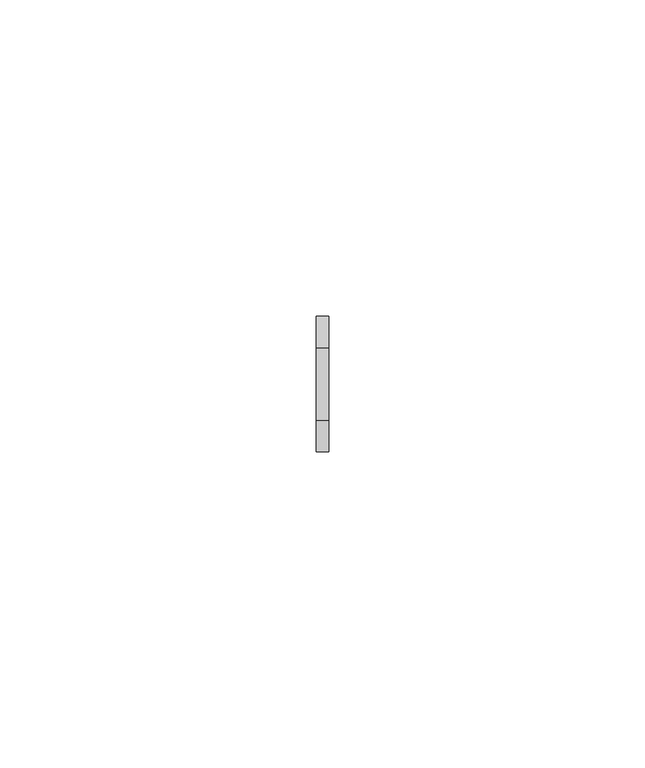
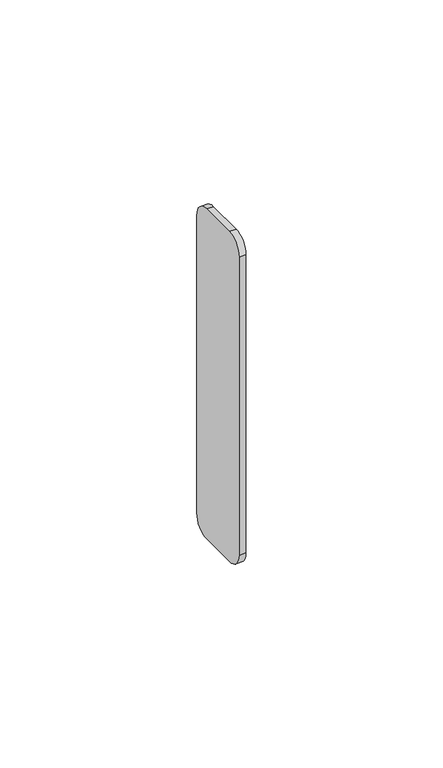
"""IFC4 building model written with IfcOpenShell, lengths in millimetres: proxy geometry, Odbojniki - OPW30R PLUS : Odbojniki - OPW30R PLUS."""

from ifc_helpers import new_model, si_unit, point, frame, frame_2d, origin, place, context, project, spatial, polyline, circle_curve, trimmed, segment, composite_curve, outline, extrude, source, transform, mapped, element, save


def generic_models_5153c576(model_context):
    return source(origin(), model_context, "Body", "SweptSolid", [
        extrude(outline(composite_curve([segment(trimmed(circle_curve(frame_2d((-48.5, 34.9697777)), 5.0), [point((-53.5, 34.9697777))], [point((-48.5, 39.9697777))], False, "CARTESIAN"), True, "CONTINUOUS"), segment(polyline([(-48.5, 39.9697777), (-37.0, 39.9697777)]), True, "CONTINUOUS"), segment(trimmed(circle_curve(frame_2d((-37.0, 34.9697777)), 5.0), [point((-37.0, 39.9697777))], [point((-32.0, 34.9697777))], False, "CARTESIAN"), True, "CONTINUOUS"), segment(polyline([(-32.0, 34.9697777), (-32.0, -57.4)]), True, "CONTINUOUS"), segment(trimmed(circle_curve(frame_2d((-37.0, -57.4)), 5.0), [point((-32.0, -57.4))], [point((-37.0, -62.4))], False, "CARTESIAN"), True, "CONTINUOUS"), segment(polyline([(-37.0, -62.4), (-48.5, -62.4)]), True, "CONTINUOUS"), segment(trimmed(circle_curve(frame_2d((-48.5, -57.4)), 5.0), [point((-48.5, -62.4))], [point((-53.5, -57.4))], False, "CARTESIAN"), True, "CONTINUOUS"), segment(polyline([(-53.5, -57.4), (-53.5, 34.9697777)]), True, "CONTINUOUS")], self_intersect=False)), frame((-1.0, 0.0, 0.0), z_axis=(1.0, 0.0, 0.0), x_axis=(0.0, 1.0, 0.0)), (0.0, 0.0, 1.0), 2.0),
    ])


if __name__ == "__main__":
    model = new_model("IFC4")
    model_context = context("Model", 3, world=origin())
    ifc_project = project(units=[si_unit("LENGTHUNIT", "METRE", prefix="MILLI")], contexts=[model_context])
    site = spatial("IfcSite", under=ifc_project)
    building = spatial("IfcBuilding", under=site)
    placement = place(None, origin())
    generic_models_shape = generic_models_5153c576(model_context)
    element("IfcBuildingElementProxy", 1, Name="Odbojniki - OPW30R PLUS : Odbojniki - OPW30R PLUS", ObjectType="Odbojniki - OPW30R PLUS : Odbojniki - OPW30R PLUS", at=placement, inside=building, context=model_context, shape_type="MappedRepresentation", body=[
        mapped(generic_models_shape, transform((0.0, 0.0, 0.0), x_axis=(1.0, 0.0, 0.0), y_axis=(0.0, 1.0, 0.0), z_axis=(0.0, 0.0, 1.0))),
    ])
    save(model, "model.ifc")
